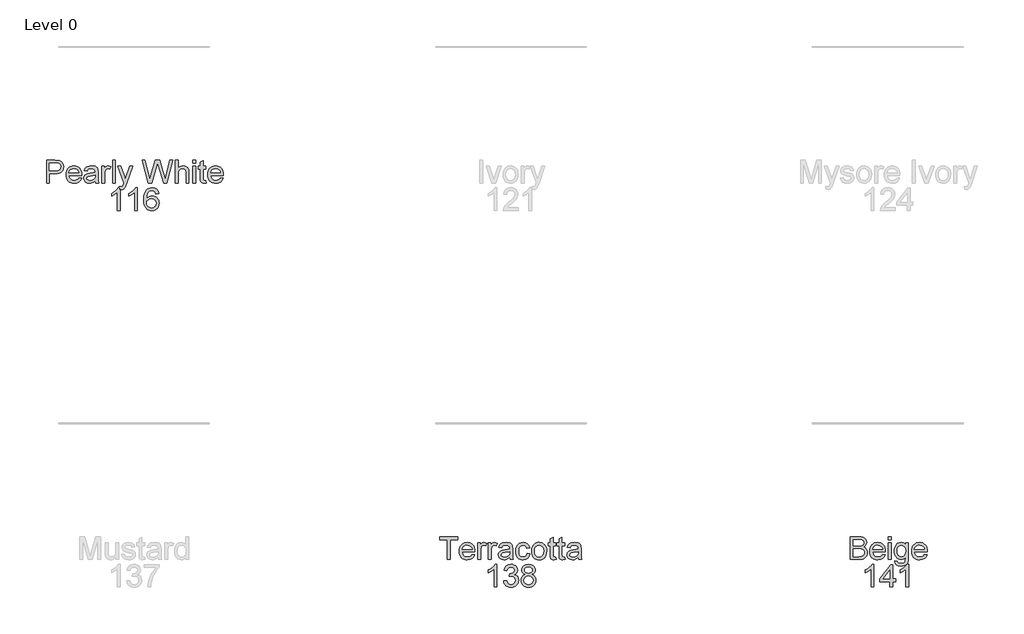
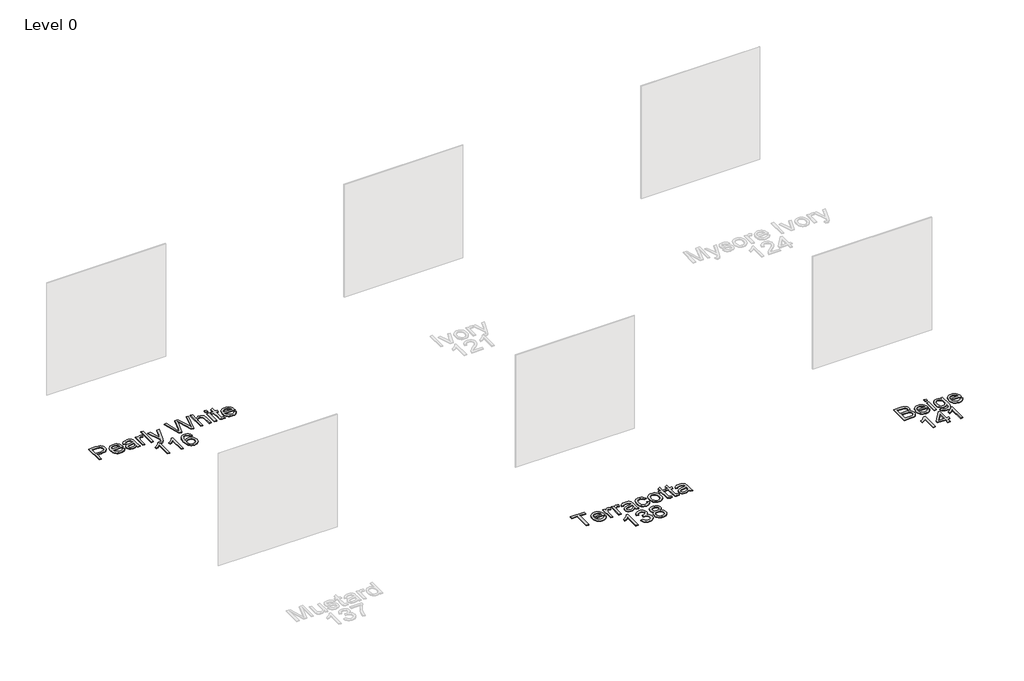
# One storey, part 13 of 15: 3 proxies.
"""IFC4 building model written with IfcOpenShell, lengths in millimetres."""

from ifc_helpers import new_model, si_unit, origin, origin_with_axes, place, context, project, spatial, polyline, outline, extrude, element, save

model = new_model("IFC4")

# Units and contexts
model_context = context("Model", 3, world=origin())
ifc_project = project(units=[si_unit("LENGTHUNIT", "METRE", prefix="MILLI")], contexts=[model_context])

# Site, building, storey
site = spatial("IfcSite", under=ifc_project)
building = spatial("IfcBuilding", under=site)
storey = spatial("IfcBuildingStorey", under=building, Name="Level 0", Elevation=0.0)

# Proxies
placement = place(None, origin())
element("IfcBuildingElementProxy", 1, Name="300mm Arial", ObjectType="300mm Arial", at=placement, inside=storey, context=model_context, shape_type="SweptSolid", body=[
    extrude(outline(polyline([(10050.1996526, -12002.860494), (10050.1996526, -11701.4915635), (10165.1995643, -11701.4915635), (10196.8282189, -11703.7080526), (10221.5222978, -11710.3575196), (10240.4498264, -11721.6055116), (10254.7788302, -11737.6175755), (10263.8011361, -11756.4531336), (10266.8085714, -11776.1716086), (10264.2793827, -11794.317388), (10256.6918165, -11811.3779155), (10243.9906906, -11826.3047274), (10226.1208227, -11838.0493601), (10247.4671755, -11849.1961846), (10263.240116, -11866.1555446), (10272.9797919, -11887.8054), (10276.2263505, -11913.0237108), (10274.0098615, -11934.0389697), (10267.3603944, -11953.5275184), (10257.4367776, -11970.1006023), (10245.3978393, -11982.3694669), (10230.6549683, -11991.253817), (10212.6195535, -11997.6733578), (10164.3166475, -12002.860494), (10050.1996526, -12002.860494)]), holes=[polyline([(10087.8707689, -11823.9226915), (10156.664702, -11823.9226915), (10196.8374159, -11820.68533), (10210.8997052, -11815.1027207), (10221.007263, -11806.7426024), (10227.1049071, -11795.7337336), (10229.1374551, -11782.2048733), (10227.2428628, -11769.071486), (10221.559086, -11757.630356), (10212.343642, -11748.7000206), (10199.8540483, -11743.0990172), (10151.4407777, -11739.1626798), (10087.8707689, -11739.1626798), (10087.8707689, -11823.9226915)]), polyline([(10087.8707689, -11965.1893777), (10165.1259879, -11965.1893777), (10193.0850196, -11963.7178497), (10216.7398319, -11955.5140812), (10232.4116048, -11938.7754504), (10237.0193268, -11926.9480443), (10238.5552342, -11913.3915928), (10236.7526124, -11897.6462434), (10231.3447471, -11884.1081859), (10221.8993768, -11873.5223815), (10207.9842404, -11866.6337912), (10188.2749625, -11862.8538037), (10161.447168, -11861.5938078), (10087.8707689, -11861.5938078), (10087.8707689, -11965.1893777)])]), origin_with_axes(), (0.0, 0.0, 1.0), 10.0),
    extrude(outline(polyline([(10478.2671422, -11936.9360404), (10515.2024945, -11941.64493), (10501.8943634, -11969.4752029), (10480.6583752, -11990.2789297), (10451.9727766, -12003.2467701), (10416.3158142, -12007.5693835), (10392.941512, -12005.7046817), (10372.1147925, -12000.1105761), (10353.8356559, -11990.7870668), (10338.1041021, -11977.7341537), (10325.45356, -11961.3151204), (10316.4174584, -11941.8932503), (10310.9957975, -11919.4685435), (10309.1885772, -11894.0409998), (10311.0141916, -11867.7512327), (10316.4910348, -11844.5792656), (10325.6191069, -11824.5250983), (10338.3984077, -11807.5887309), (10354.0885748, -11794.133447), (10371.9492456, -11784.5225298), (10391.9804203, -11778.7559796), (10414.1820987, -11776.8337961), (10435.6687064, -11778.751381), (10455.0997736, -11784.5041357), (10472.4753001, -11794.0920602), (10487.7952859, -11807.5151545), (10500.3009745, -11824.4147337), (10509.2336092, -11844.4321128), (10514.59319, -11867.5672917), (10516.3797169, -11893.8202706), (10516.1589877, -11903.9738137), (10346.8596935, -11903.9738137), (10353.3804019, -11932.1719686), (10368.5279431, -11952.902119), (10390.3893306, -11965.6492302), (10417.0515782, -11969.8982672), (10437.101147, -11967.9300985), (10453.9869305, -11962.0255925), (10467.708929, -11951.8168672), (10478.2671422, -11936.9360404)]), holes=[polyline([(10346.8596935, -11866.3026974), (10478.7086006, -11866.3026974), (10473.613435, -11846.4002814), (10463.6254388, -11832.1632482), (10441.6628837, -11818.9194964), (10414.0349459, -11814.5049125), (10388.6418911, -11818.0273826), (10367.6450263, -11828.5947929), (10353.0493081, -11845.0667092), (10346.8596935, -11866.3026974)])]), origin_with_axes(), (0.0, 0.0, 1.0), 10.0),
    extrude(outline(polyline([(10554.0508332, -11739.1626798), (10554.0508332, -11701.4915635), (10591.7219495, -11701.4915635), (10591.7219495, -11739.1626798), (10554.0508332, -11739.1626798)])), origin_with_axes(), (0.0, 0.0, 1.0), 10.0),
    extrude(outline(polyline([(10554.0508332, -12002.860494), (10554.0508332, -11781.5426857), (10591.7219495, -11781.5426857), (10591.7219495, -12002.860494), (10554.0508332, -12002.860494)])), origin_with_axes(), (0.0, 0.0, 1.0), 10.0),
    extrude(outline(polyline([(10638.8108449, -12021.6960521), (10676.4819612, -12026.4049417), (10680.6390278, -12038.1771655), (10688.6956435, -12046.2705694), (10704.5329634, -12052.5613515), (10725.2631138, -12054.6582789), (10747.3728217, -12052.28544), (10763.8171469, -12045.1669234), (10775.2214887, -12033.7625816), (10782.2112466, -12018.532267), (10784.7864206, -11974.6071568), (10772.2508416, -11986.9679918), (10758.2621288, -11995.7971597), (10742.820282, -12001.0946604), (10725.9253014, -12002.860494), (10705.2710266, -12000.8049533), (10687.0861597, -11994.6383314), (10671.3707008, -11984.3606281), (10658.1246497, -11969.9718436), (10647.6147209, -11952.708981), (10640.107629, -11933.8090435), (10635.6033738, -11913.2720311), (10634.1019554, -11891.0979438), (10636.796691, -11860.6832999), (10644.8808978, -11832.7150712), (10658.0694674, -11809.0142737), (10676.077291, -11791.4019232), (10698.2881665, -11780.4758279), (10724.0858914, -11776.8337961), (10741.7028404, -11778.8939353), (10757.6919117, -11785.0743528), (10772.053105, -11795.3750487), (10784.7864206, -11809.7960229), (10784.7864206, -11781.5426857), (10822.4575369, -11781.5426857), (10822.4575369, -11972.620594), (10819.8823629, -12016.7388422), (10812.156841, -12045.7923228), (10798.8487099, -12065.0601423), (10779.5257081, -12079.8214074), (10754.6109, -12089.2023982), (10724.5273498, -12092.3293952), (10689.4773927, -12087.9240083), (10661.877046, -12074.7078476), (10651.4820804, -12064.7865301), (10644.172725, -12052.644125), (10639.9489798, -12038.2806323), (10638.8108449, -12021.6960521)]), holes=[polyline([(10671.7730717, -11888.5227699), (10675.7921825, -11923.0760863), (10687.8495149, -11946.8320661), (10705.9769002, -11960.6000498), (10728.2061697, -11965.1893777), (10750.2698924, -11960.6276409), (10768.4892482, -11946.9424307), (10780.7121275, -11923.4899535), (10784.7864206, -11889.6264159), (10780.5925659, -11856.9676917), (10768.0110016, -11833.4508352), (10749.5249314, -11819.2413931), (10727.6175586, -11814.5049125), (10706.1056589, -11819.1678167), (10688.0702441, -11833.1565296), (10675.8473648, -11856.3238983), (10671.7730717, -11888.5227699)])]), origin_with_axes(), (0.0, 0.0, 1.0), 10.0),
    extrude(outline(polyline([(11033.9161077, -11936.9360404), (11070.8514601, -11941.64493), (11057.5433289, -11969.4752029), (11036.3073407, -11990.2789297), (11007.6217421, -12003.2467701), (10971.9647798, -12007.5693835), (10948.5904775, -12005.7046817), (10927.763758, -12000.1105761), (10909.4846214, -11990.7870668), (10893.7530676, -11977.7341537), (10881.1025255, -11961.3151204), (10872.066424, -11941.8932503), (10866.6447631, -11919.4685435), (10864.8375428, -11894.0409998), (10866.6631572, -11867.7512327), (10872.1400004, -11844.5792656), (10881.2680724, -11824.5250983), (10894.0473732, -11807.5887309), (10909.7375403, -11794.133447), (10927.5982111, -11784.5225298), (10947.6293858, -11778.7559796), (10969.8310642, -11776.8337961), (10991.317672, -11778.751381), (11010.7487391, -11784.5041357), (11028.1242656, -11794.0920602), (11043.4442514, -11807.5151545), (11055.94994, -11824.4147337), (11064.8825747, -11844.4321128), (11070.2421555, -11867.5672917), (11072.0286824, -11893.8202706), (11071.8079532, -11903.9738137), (10902.5086591, -11903.9738137), (10909.0293674, -11932.1719686), (10924.1769086, -11952.902119), (10946.0382961, -11965.6492302), (10972.7005437, -11969.8982672), (10992.7501125, -11967.9300985), (11009.6358961, -11962.0255925), (11023.3578945, -11951.8168672), (11033.9161077, -11936.9360404)]), holes=[polyline([(10902.5086591, -11866.3026974), (11034.3575661, -11866.3026974), (11029.2624005, -11846.4002814), (11019.2744043, -11832.1632482), (10997.3118492, -11818.9194964), (10969.6839114, -11814.5049125), (10944.2908567, -11818.0273826), (10923.2939918, -11828.5947929), (10908.6982736, -11845.0667092), (10902.5086591, -11866.3026974)])]), origin_with_axes(), (0.0, 0.0, 1.0), 10.0),
    extrude(outline(polyline([(10363.3408069, -12368.7849475), (10325.6696906, -12368.7849475), (10325.6696906, -12133.9290818), (10289.9851371, -12159.3497277), (10250.327458, -12178.3692268), (10250.327458, -12142.7582497), (10279.9143675, -12126.6634124), (10305.5465455, -12107.5151545), (10325.7524641, -12087.1528861), (10339.0605952, -12067.4160171), (10363.3408069, -12067.4160171), (10363.3408069, -12368.7849475)])), origin_with_axes(), (0.0, 0.0, 1.0), 10.0),
    extrude(outline(polyline([(10575.2408362, -12368.7849475), (10575.2408362, -12298.1516044), (10438.6830395, -12298.1516044), (10438.6830395, -12260.4804881), (10584.6586152, -12072.1249066), (10612.9119525, -12072.1249066), (10612.9119525, -12260.4804881), (10650.5830688, -12260.4804881), (10650.5830688, -12298.1516044), (10612.9119525, -12298.1516044), (10612.9119525, -12368.7849475), (10575.2408362, -12368.7849475)]), holes=[polyline([(10575.2408362, -12260.4804881), (10575.2408362, -12144.0826249), (10485.0361709, -12260.4804881), (10575.2408362, -12260.4804881)])]), origin_with_axes(), (0.0, 0.0, 1.0), 10.0),
    extrude(outline(polyline([(10824.8119817, -12368.7849475), (10787.1408654, -12368.7849475), (10787.1408654, -12133.9290818), (10751.4563118, -12159.3497277), (10711.7986328, -12178.3692268), (10711.7986328, -12142.7582497), (10741.3855422, -12126.6634124), (10767.0177202, -12107.5151545), (10787.2236388, -12087.1528861), (10800.53177, -12067.4160171), (10824.8119817, -12067.4160171), (10824.8119817, -12368.7849475)])), origin_with_axes(), (0.0, 0.0, 1.0), 10.0),
])
element("IfcBuildingElementProxy", 2, Name="300mm Arial", ObjectType="300mm Arial", at=placement, inside=storey, context=model_context, shape_type="SweptSolid", body=[
    extrude(outline(polyline([(-611.3993275, -7002.860494), (-611.3993275, -6701.4915635), (-499.7103538, -6701.4915635), (-454.6815975, -6704.3610431), (-434.6044377, -6709.7229232), (-418.077339, -6718.4509235), (-404.7692078, -6730.9405172), (-394.3489503, -6747.5871775), (-387.6167098, -6767.222879), (-385.3726297, -6788.6795964), (-386.8878436, -6807.1794622), (-391.4334855, -6824.198603), (-399.0095554, -6839.7370188), (-409.6160531, -6853.7947095), (-424.1772824, -6865.4473717), (-443.6175465, -6873.7707019), (-467.9368457, -6878.7647), (-497.1351798, -6880.429366), (-573.7282112, -6880.429366), (-573.7282112, -7002.860494), (-611.3993275, -7002.860494)]), holes=[polyline([(-573.7282112, -6842.7582497), (-494.9278878, -6842.7582497), (-461.5242027, -6839.3001589), (-439.4512829, -6828.9258867), (-427.1456302, -6812.2792264), (-423.043746, -6790.0039716), (-425.4625701, -6773.0813998), (-432.7190424, -6758.8075784), (-443.9118521, -6748.0654241), (-458.1396883, -6741.7378538), (-495.8108046, -6739.1626798), (-573.7282112, -6739.1626798), (-573.7282112, -6842.7582497)])]), origin_with_axes(), (0.0, 0.0, 1.0), 10.0),
    extrude(outline(polyline([(-183.3318379, -6936.9360404), (-146.3964856, -6941.64493), (-159.7046168, -6969.4752029), (-180.9406049, -6990.2789297), (-209.6262035, -7003.2467701), (-245.2831659, -7007.5693835), (-268.6574682, -7005.7046817), (-289.4841876, -7000.1105761), (-307.7633242, -6990.7870668), (-323.4948781, -6977.7341537), (-336.1454202, -6961.3151204), (-345.1815217, -6941.8932503), (-350.6031826, -6919.4685435), (-352.4104029, -6894.0409998), (-350.5847885, -6867.7512327), (-345.1079453, -6844.5792656), (-335.9798733, -6824.5250983), (-323.2005725, -6807.5887309), (-307.5104054, -6794.133447), (-289.6497345, -6784.5225298), (-269.6185599, -6778.7559796), (-247.4168815, -6776.8337961), (-225.9302737, -6778.751381), (-206.4992065, -6784.5041357), (-189.1236801, -6794.0920602), (-173.8036942, -6807.5151545), (-161.2980057, -6824.4147337), (-152.365371, -6844.4321128), (-147.0057901, -6867.5672917), (-145.2192632, -6893.8202706), (-145.4399924, -6903.9738137), (-314.7392866, -6903.9738137), (-308.2185782, -6932.1719686), (-293.0710371, -6952.902119), (-271.2096495, -6965.6492302), (-244.5474019, -6969.8982672), (-224.4978332, -6967.9300985), (-207.6120496, -6962.0255925), (-193.8900512, -6951.8168672), (-183.3318379, -6936.9360404)]), holes=[polyline([(-314.7392866, -6866.3026974), (-182.8903795, -6866.3026974), (-187.9855451, -6846.4002814), (-197.9735413, -6832.1632482), (-219.9360964, -6818.9194964), (-247.5640343, -6814.5049125), (-272.957089, -6818.0273826), (-293.9539539, -6828.5947929), (-308.549672, -6845.0667092), (-314.7392866, -6866.3026974)])]), origin_with_axes(), (0.0, 0.0, 1.0), 10.0),
    extrude(outline(polyline([(33.7185393, -6974.6071568), (15.7199126, -6990.0398064), (-2.8121429, -7000.1381672), (-22.3006916, -7005.7115794), (-43.1687977, -7007.5693835), (-74.6502995, -7003.0996173), (-97.8728504, -6989.6903186), (-112.1926571, -6969.3280501), (-116.965926, -6943.9993748), (-115.1633042, -6928.3827841), (-109.7554389, -6914.2009331), (-101.4137146, -6902.0608273), (-90.8095161, -6892.5694718), (-64.4323771, -6880.2086368), (-31.8380323, -6874.5432541), (6.6792126, -6868.5835657), (33.4978101, -6861.5938078), (33.7185393, -6853.2060983), (31.1249712, -6836.3938912), (23.344267, -6825.3942195), (5.9434486, -6817.2272392), (-18.2999749, -6814.5049125), (-40.7407766, -6816.3167313), (-56.4125496, -6821.7521878), (-67.0995215, -6831.8045633), (-74.5859201, -6847.4671392), (-112.2570364, -6842.7582497), (-105.717934, -6822.156858), (-95.959864, -6805.9700502), (-82.0723187, -6793.590821), (-63.1447901, -6784.4121652), (-39.9958155, -6778.7283884), (-13.4439325, -6776.8337961), (12.0226986, -6778.5076592), (32.2102231, -6783.5292485), (47.4313406, -6791.0800264), (57.9987509, -6800.3414556), (65.0069029, -6811.7917827), (69.5502456, -6825.9092543), (71.3896556, -6858.8714811), (71.3896556, -6905.7396473), (73.3026419, -6971.1858542), (80.8074346, -7002.860494), (43.1363183, -7002.860494), (33.7185393, -6974.6071568)]), holes=[polyline([(33.7185393, -6899.2649241), (-27.0555664, -6910.8164188), (-59.4659701, -6916.9232599), (-74.1444617, -6926.8560738), (-79.2948097, -6941.3506244), (-76.4897095, -6952.5526311), (-68.0744088, -6961.7312869), (-54.2328487, -6967.8565221), (-35.1489702, -6969.8982672), (-14.9154605, -6967.64499), (2.9636045, -6960.8851583), (17.4581551, -6950.9247533), (27.5381217, -6939.069756), (32.007888, -6926.8560738), (33.4978101, -6909.933502), (33.7185393, -6899.2649241)])]), origin_with_axes(), (0.0, 0.0, 1.0), 10.0),
    extrude(outline(polyline([(123.1874405, -7002.860494), (123.1874405, -6781.5426857), (156.1496672, -6781.5426857), (156.1496672, -6814.2841833), (168.3265613, -6795.3014723), (179.5469621, -6784.1178596), (190.8041512, -6778.654812), (203.0914098, -6776.8337961), (221.8533916, -6779.7400639), (240.9096789, -6788.4588672), (228.3281147, -6822.2304343), (215.0843629, -6816.4362929), (201.840611, -6814.5049125), (190.592619, -6816.3627165), (180.5402435, -6821.9361288), (172.4192485, -6830.8020848), (166.9653979, -6842.5375205), (162.3852671, -6863.5803706), (160.8585568, -6886.5362071), (160.8585568, -7002.860494), (123.1874405, -7002.860494)])), origin_with_axes(), (0.0, 0.0, 1.0), 10.0),
    extrude(outline(polyline([(264.4541266, -7002.860494), (264.4541266, -6701.4915635), (302.1252429, -6701.4915635), (302.1252429, -7002.860494), (264.4541266, -7002.860494)])), origin_with_axes(), (0.0, 0.0, 1.0), 10.0),
    extrude(outline(polyline([(358.6319174, -7087.6205057), (353.9230279, -7051.3473409), (373.0528916, -7054.6582789), (390.9319566, -7050.5012124), (401.89484, -7038.9129295), (412.1955359, -7011.1746271), (415.1385919, -7002.0511536), (335.0874697, -6781.5426857), (374.8187252, -6781.5426857), (417.2723074, -6904.4152721), (432.0611636, -6953.5643066), (446.8500198, -6910.1542312), (490.4808245, -6781.5426857), (529.9177743, -6781.5426857), (452.8832846, -7008.1579947), (432.870504, -7057.3070293), (422.6249905, -7072.9971964), (411.0183135, -7083.8681093), (397.5354384, -7090.2140737), (381.6613303, -7092.3293952), (358.6319174, -7087.6205057)])), origin_with_axes(), (0.0, 0.0, 1.0), 10.0),
    extrude(outline(polyline([(737.476796, -7002.860494), (655.2919583, -6701.4915635), (694.140297, -6701.4915635), (741.8178036, -6899.5592297), (756.5330834, -6960.7012173), (772.2784328, -6906.622564), (832.0224688, -6701.4915635), (888.0141085, -6701.4915635), (931.4241839, -6850.189466), (950.0206187, -6905.3717653), (963.7242231, -6960.7012173), (977.9980445, -6901.3250633), (1026.1170094, -6701.4915635), (1064.9653481, -6701.4915635), (982.706934, -7002.860494), (942.4606437, -7002.860494), (870.2086199, -6770.359073), (860.1286532, -6737.9118811), (848.7978878, -6776.9809489), (782.9470106, -7002.860494), (737.476796, -7002.860494)])), origin_with_axes(), (0.0, 0.0, 1.0), 10.0),
    extrude(outline(polyline([(1097.9275749, -7002.860494), (1097.9275749, -6701.4915635), (1135.5986912, -6701.4915635), (1135.5986912, -6812.2976205), (1149.4356527, -6796.7821973), (1164.9740685, -6785.6997522), (1182.2139385, -6779.0502852), (1201.1552627, -6776.8337961), (1223.9087641, -6779.2526203), (1243.4616922, -6786.5090926), (1258.8575537, -6798.0329961), (1269.1398555, -6813.2541137), (1274.9339969, -6834.1682051), (1276.8653774, -6862.7710302), (1276.8653774, -7002.860494), (1239.194261, -7002.860494), (1239.194261, -6866.6705794), (1236.1960228, -6843.0893435), (1227.201308, -6826.9393239), (1212.7067574, -6817.6135153), (1193.2090117, -6814.5049125), (1177.2889183, -6816.6018398), (1162.3437123, -6822.8926219), (1149.9644831, -6832.7702535), (1141.7423205, -6845.6277292), (1137.1345985, -6862.7158479), (1135.5986912, -6885.2854083), (1135.5986912, -7002.860494), (1097.9275749, -7002.860494)])), origin_with_axes(), (0.0, 0.0, 1.0), 10.0),
    extrude(outline(polyline([(1328.6631623, -6739.1626798), (1328.6631623, -6701.4915635), (1366.3342786, -6701.4915635), (1366.3342786, -6739.1626798), (1328.6631623, -6739.1626798)])), origin_with_axes(), (0.0, 0.0, 1.0), 10.0),
    extrude(outline(polyline([(1328.6631623, -7002.860494), (1328.6631623, -6781.5426857), (1366.3342786, -6781.5426857), (1366.3342786, -7002.860494), (1328.6631623, -7002.860494)])), origin_with_axes(), (0.0, 0.0, 1.0), 10.0),
    extrude(outline(polyline([(1502.8920752, -6971.4433716), (1507.6009647, -7003.96414), (1479.4212039, -7007.5693835), (1461.3398038, -7006.005885), (1447.8569287, -7001.3153896), (1438.328785, -6994.0865084), (1432.1115793, -6984.9078526), (1428.6902768, -6969.1441091), (1427.5498426, -6942.1599648), (1427.5498426, -6819.213802), (1399.2965053, -6819.213802), (1399.2965053, -6781.5426857), (1427.5498426, -6781.5426857), (1427.5498426, -6727.758338), (1465.2209589, -6705.6118419), (1465.2209589, -6781.5426857), (1502.8920752, -6781.5426857), (1502.8920752, -6819.213802), (1465.2209589, -6819.213802), (1465.2209589, -6941.0563188), (1467.2075217, -6960.4804881), (1473.6454566, -6967.3598814), (1486.4845382, -6969.8982672), (1502.8920752, -6971.4433716)])), origin_with_axes(), (0.0, 0.0, 1.0), 10.0),
    extrude(outline(polyline([(1695.5150879, -6936.9360404), (1732.4504402, -6941.64493), (1719.142309, -6969.4752029), (1697.9063208, -6990.2789297), (1669.2207223, -7003.2467701), (1633.5637599, -7007.5693835), (1610.1894576, -7005.7046817), (1589.3627382, -7000.1105761), (1571.0836015, -6990.7870668), (1555.3520477, -6977.7341537), (1542.7015056, -6961.3151204), (1533.6654041, -6941.8932503), (1528.2437432, -6919.4685435), (1526.4365229, -6894.0409998), (1528.2621373, -6867.7512327), (1533.7389805, -6844.5792656), (1542.8670525, -6824.5250983), (1555.6463533, -6807.5887309), (1571.3365204, -6794.133447), (1589.1971913, -6784.5225298), (1609.2283659, -6778.7559796), (1631.4300443, -6776.8337961), (1652.9166521, -6778.751381), (1672.3477192, -6784.5041357), (1689.7232457, -6794.0920602), (1705.0432315, -6807.5151545), (1717.5489201, -6824.4147337), (1726.4815548, -6844.4321128), (1731.8411356, -6867.5672917), (1733.6276626, -6893.8202706), (1733.4069334, -6903.9738137), (1564.1076392, -6903.9738137), (1570.6283476, -6932.1719686), (1585.7758887, -6952.902119), (1607.6372763, -6965.6492302), (1634.2995239, -6969.8982672), (1654.3490926, -6967.9300985), (1671.2348762, -6962.0255925), (1684.9568746, -6951.8168672), (1695.5150879, -6936.9360404)]), holes=[polyline([(1564.1076392, -6866.3026974), (1695.9565463, -6866.3026974), (1690.8613806, -6846.4002814), (1680.8733845, -6832.1632482), (1658.9108293, -6818.9194964), (1631.2828915, -6814.5049125), (1605.8898368, -6818.0273826), (1584.8929719, -6828.5947929), (1570.2972538, -6845.0667092), (1564.1076392, -6866.3026974)])]), origin_with_axes(), (0.0, 0.0, 1.0), 10.0),
    extrude(outline(polyline([(363.3408069, -7368.7849475), (325.6696906, -7368.7849475), (325.6696906, -7133.9290818), (289.9851371, -7159.3497277), (250.327458, -7178.3692268), (250.327458, -7142.7582497), (279.9143675, -7126.6634124), (305.5465455, -7107.5151545), (325.7524641, -7087.1528861), (339.0605952, -7067.4160171), (363.3408069, -7067.4160171), (363.3408069, -7368.7849475)])), origin_with_axes(), (0.0, 0.0, 1.0), 10.0),
    extrude(outline(polyline([(594.0763943, -7368.7849475), (556.405278, -7368.7849475), (556.405278, -7133.9290818), (520.7207245, -7159.3497277), (481.0630454, -7178.3692268), (481.0630454, -7142.7582497), (510.6499548, -7126.6634124), (536.2821329, -7107.5151545), (556.4880514, -7087.1528861), (569.7961826, -7067.4160171), (594.0763943, -7067.4160171), (594.0763943, -7368.7849475)])), origin_with_axes(), (0.0, 0.0, 1.0), 10.0),
    extrude(outline(polyline([(876.6097666, -7147.4671392), (838.9386503, -7152.1760288), (832.8685974, -7133.5060175), (824.6648289, -7120.7589064), (807.5767102, -7109.0050766), (786.9201362, -7105.0871334), (769.4089532, -7107.3680017), (752.9278398, -7114.2106069), (738.7735801, -7128.622384), (727.2128884, -7148.4604206), (719.404593, -7176.5206198), (716.5075223, -7215.5988847), (731.6182753, -7197.9681401), (749.7272665, -7185.5429257), (769.8228205, -7178.1760888), (790.8932617, -7175.7204764), (808.9930559, -7177.3989381), (825.6948985, -7182.4343229), (840.9987895, -7190.8266309), (854.9047289, -7202.5758621), (866.4608221, -7216.9830407), (874.7151743, -7233.349191), (879.6677857, -7251.6743129), (881.3186561, -7271.9584064), (878.2100533, -7298.9333537), (868.8842447, -7323.9401323), (854.1137826, -7345.1485293), (834.6712192, -7360.7283318), (811.4394712, -7370.3024607), (785.3014554, -7373.4938371), (762.8445589, -7371.3785156), (742.5627646, -7365.0325512), (724.4560727, -7354.4559438), (708.524483, -7339.6486935), (695.5359493, -7319.9854009), (686.2584252, -7294.8406665), (680.6919108, -7264.2144904), (678.836406, -7228.1068726), (680.8965452, -7187.6260575), (687.0769627, -7153.0773396), (697.3776586, -7124.4607189), (711.7986328, -7101.7761954), (727.429019, -7086.7436174), (745.5518058, -7076.0060617), (766.1669931, -7069.5635282), (789.2745809, -7067.4160171), (822.3287782, -7072.7319119), (848.7978878, -7088.6795964), (867.3391403, -7114.0082718), (876.6097666, -7147.4671392)]), holes=[polyline([(716.5075223, -7271.3697952), (718.6872231, -7288.0624407), (725.2263256, -7304.0009282), (735.3798687, -7317.7045325), (748.4028913, -7327.6925287), (764.1206495, -7333.7901727), (782.3583994, -7335.8227207), (807.2180253, -7331.6104719), (826.7617563, -7318.9737254), (839.4260939, -7299.1080976), (843.6475398, -7273.2092052), (839.4812762, -7248.3495793), (826.9824855, -7229.3944595), (807.1076607, -7217.3923095), (780.8132951, -7213.3915928), (755.9904574, -7217.3923095), (735.2327159, -7229.3944595), (721.1888207, -7247.8897269), (716.5075223, -7271.3697952)])]), origin_with_axes(), (0.0, 0.0, 1.0), 10.0),
])
element("IfcBuildingElementProxy", 3, Name="300mm Arial", ObjectType="300mm Arial", at=placement, inside=storey, context=model_context, shape_type="SweptSolid", body=[
    extrude(outline(polyline([(4704.0962716, -12002.860494), (4704.0962716, -11739.1626798), (4605.2095913, -11739.1626798), (4605.2095913, -11701.4915635), (4840.6540682, -11701.4915635), (4840.6540682, -11739.1626798), (4741.7673879, -11739.1626798), (4741.7673879, -12002.860494), (4704.0962716, -12002.860494)])), origin_with_axes(), (0.0, 0.0, 1.0), 10.0),
    extrude(outline(polyline([(5033.2770809, -11936.9360404), (5070.2124332, -11941.64493), (5056.904302, -11969.4752029), (5035.6683138, -11990.2789297), (5006.9827153, -12003.2467701), (4971.3257529, -12007.5693835), (4947.9514506, -12005.7046817), (4927.1247312, -12000.1105761), (4908.8455945, -11990.7870668), (4893.1140407, -11977.7341537), (4880.4634986, -11961.3151204), (4871.4273971, -11941.8932503), (4866.0057362, -11919.4685435), (4864.1985159, -11894.0409998), (4866.0241303, -11867.7512327), (4871.5009735, -11844.5792656), (4880.6290455, -11824.5250983), (4893.4083463, -11807.5887309), (4909.0985134, -11794.133447), (4926.9591843, -11784.5225298), (4946.9903589, -11778.7559796), (4969.1920373, -11776.8337961), (4990.6786451, -11778.751381), (5010.1097122, -11784.5041357), (5027.4852387, -11794.0920602), (5042.8052245, -11807.5151545), (5055.3109131, -11824.4147337), (5064.2435478, -11844.4321128), (5069.6031286, -11867.5672917), (5071.3896556, -11893.8202706), (5071.1689264, -11903.9738137), (4901.8696322, -11903.9738137), (4908.3903405, -11932.1719686), (4923.5378817, -11952.902119), (4945.3992693, -11965.6492302), (4972.0615169, -11969.8982672), (4992.1110856, -11967.9300985), (5008.9968692, -11962.0255925), (5022.7188676, -11951.8168672), (5033.2770809, -11936.9360404)]), holes=[polyline([(4901.8696322, -11866.3026974), (5033.7185393, -11866.3026974), (5028.6233736, -11846.4002814), (5018.6353775, -11832.1632482), (4996.6728223, -11818.9194964), (4969.0448845, -11814.5049125), (4943.6518298, -11818.0273826), (4922.6549649, -11828.5947929), (4908.0592468, -11845.0667092), (4901.8696322, -11866.3026974)])]), origin_with_axes(), (0.0, 0.0, 1.0), 10.0),
    extrude(outline(polyline([(5109.0607719, -12002.860494), (5109.0607719, -11781.5426857), (5142.0229986, -11781.5426857), (5142.0229986, -11814.2841833), (5154.1998927, -11795.3014723), (5165.4202935, -11784.1178596), (5176.6774826, -11778.654812), (5188.9647412, -11776.8337961), (5207.726723, -11779.7400639), (5226.7830103, -11788.4588672), (5214.2014461, -11822.2304343), (5200.9576943, -11816.4362929), (5187.7139424, -11814.5049125), (5176.4659504, -11816.3627165), (5166.4135749, -11821.9361288), (5158.2925799, -11830.8020848), (5152.8387293, -11842.5375205), (5148.2585985, -11863.5803706), (5146.7318882, -11886.5362071), (5146.7318882, -12002.860494), (5109.0607719, -12002.860494)])), origin_with_axes(), (0.0, 0.0, 1.0), 10.0),
    extrude(outline(polyline([(5250.327458, -12002.860494), (5250.327458, -11781.5426857), (5283.2896848, -11781.5426857), (5283.2896848, -11814.2841833), (5295.4665788, -11795.3014723), (5306.6869797, -11784.1178596), (5317.9441687, -11778.654812), (5330.2314274, -11776.8337961), (5348.9934091, -11779.7400639), (5368.0496965, -11788.4588672), (5355.4681322, -11822.2304343), (5342.2243804, -11816.4362929), (5328.9806286, -11814.5049125), (5317.7326366, -11816.3627165), (5307.6802611, -11821.9361288), (5299.559266, -11830.8020848), (5294.1054154, -11842.5375205), (5289.5252846, -11863.5803706), (5287.9985743, -11886.5362071), (5287.9985743, -12002.860494), (5250.327458, -12002.860494)])), origin_with_axes(), (0.0, 0.0, 1.0), 10.0),
    extrude(outline(polyline([(5532.8608303, -11974.6071568), (5514.8622037, -11990.0398064), (5496.3301482, -12000.1381672), (5476.8415995, -12005.7115794), (5455.9734933, -12007.5693835), (5424.4919916, -12003.0996173), (5401.2694406, -11989.6903186), (5386.949634, -11969.3280501), (5382.1763651, -11943.9993748), (5383.9789869, -11928.3827841), (5389.3868522, -11914.2009331), (5397.7285764, -11902.0608273), (5408.3327749, -11892.5694718), (5434.709914, -11880.2086368), (5467.3042588, -11874.5432541), (5505.8215037, -11868.5835657), (5532.6401011, -11861.5938078), (5532.8608303, -11853.2060983), (5530.2672622, -11836.3938912), (5522.486558, -11825.3942195), (5505.0857397, -11817.2272392), (5480.8423162, -11814.5049125), (5458.4015145, -11816.3167313), (5442.7297415, -11821.7521878), (5432.0427695, -11831.8045633), (5424.5563709, -11847.4671392), (5386.8852546, -11842.7582497), (5393.4243571, -11822.156858), (5403.182427, -11805.9700502), (5417.0699723, -11793.590821), (5435.997501, -11784.4121652), (5459.1464755, -11778.7283884), (5485.6983585, -11776.8337961), (5511.1649896, -11778.5076592), (5531.3525141, -11783.5292485), (5546.5736317, -11791.0800264), (5557.141042, -11800.3414556), (5564.149194, -11811.7917827), (5568.6925366, -11825.9092543), (5570.5319466, -11858.8714811), (5570.5319466, -11905.7396473), (5572.444933, -11971.1858542), (5579.9497257, -12002.860494), (5542.2786094, -12002.860494), (5532.8608303, -11974.6071568)]), holes=[polyline([(5532.8608303, -11899.2649241), (5472.0867247, -11910.8164188), (5439.6763209, -11916.9232599), (5424.9978293, -11926.8560738), (5419.8474814, -11941.3506244), (5422.6525816, -11952.5526311), (5431.0678822, -11961.7312869), (5444.9094423, -11967.8565221), (5463.9933208, -11969.8982672), (5484.2268305, -11967.64499), (5502.1058955, -11960.8851583), (5516.6004461, -11950.9247533), (5526.6804128, -11939.069756), (5531.150179, -11926.8560738), (5532.6401011, -11909.933502), (5532.8608303, -11899.2649241)])]), origin_with_axes(), (0.0, 0.0, 1.0), 10.0),
    extrude(outline(polyline([(5763.5964177, -11922.8093718), (5801.267534, -11927.5182614), (5790.764503, -11961.0231141), (5771.027634, -11986.3425924), (5743.9147309, -12002.2626857), (5711.283598, -12007.5693835), (5690.1556751, -12005.7184772), (5671.2120516, -12000.1657584), (5654.4527275, -11990.9112269), (5639.8777027, -11977.9548829), (5628.080187, -11961.5404481), (5619.65339, -11941.9116444), (5614.5973118, -11919.0684718), (5612.9119525, -11893.0109302), (5615.7906291, -11859.4876834), (5624.4266589, -11830.4342028), (5638.9579977, -11806.9725286), (5659.5226012, -11790.2247008), (5684.1247097, -11780.1815223), (5710.7685632, -11776.8337961), (5742.5995528, -11781.4323211), (5768.0477898, -11795.2278959), (5786.3039338, -11817.4847566), (5796.5586445, -11847.4671392), (5758.8875281, -11852.1760288), (5752.0541201, -11835.7409006), (5741.4131334, -11823.9594797), (5727.5531792, -11816.8685543), (5711.0628688, -11814.5049125), (5686.7182777, -11819.1586197), (5667.3952759, -11833.1197414), (5654.7861206, -11857.1424357), (5650.5830688, -11891.9808606), (5654.6941501, -11927.2883351), (5667.0273939, -11951.3938029), (5686.0009079, -11965.2721511), (5710.0327992, -11969.8982672), (5729.539742, -11967.0103936), (5745.5334117, -11958.3467726), (5757.1676798, -11943.6866751), (5763.5964177, -11922.8093718)])), origin_with_axes(), (0.0, 0.0, 1.0), 10.0),
    extrude(outline(polyline([(5824.8119817, -11892.2015898), (5826.8491282, -11863.5389839), (5832.9605679, -11838.8403064), (5843.1463006, -11818.1055575), (5857.4063265, -11801.334737), (5871.7629213, -11790.6155754), (5887.6094383, -11782.9590314), (5904.9458773, -11778.3651049), (5923.7722384, -11776.8337961), (5944.5552718, -11778.698498), (5963.347144, -11784.2926036), (5980.1478549, -11793.6161129), (5994.9574045, -11806.669026), (6007.0446273, -11823.0098843), (6015.6783578, -11842.1972296), (6020.8585962, -11864.2310619), (6022.5853423, -11889.1113811), (6019.5319217, -11927.1687735), (6010.37166, -11956.1394806), (5995.3712717, -11977.8353213), (5974.7974711, -11994.0681143), (5950.3609096, -12004.1940662), (5923.7722384, -12007.5693835), (5902.6857023, -12005.7115794), (5883.7190862, -12000.1381672), (5866.87239, -11990.8491468), (5852.1456139, -11977.8445183), (5840.1871498, -11961.3450108), (5831.6453897, -11941.5713536), (5826.5203337, -11918.5235466), (5824.8119817, -11892.2015898)]), holes=[polyline([(5862.483098, -11892.1280134), (5866.8424996, -11926.2214773), (5879.9207046, -11950.5108861), (5899.6023913, -11965.0514219), (5923.7722384, -11969.8982672), (5947.8317209, -11965.0238308), (5967.4766194, -11950.4005215), (5980.5548243, -11925.789216), (5984.914226, -11890.950791), (5980.5272332, -11857.8506085), (5967.3662548, -11833.8922936), (5947.6937651, -11819.3517577), (5923.7722384, -11814.5049125), (5899.6023913, -11819.3333636), (5879.9207046, -11833.8187172), (5866.8424996, -11858.0529436), (5862.483098, -11892.1280134)])]), origin_with_axes(), (0.0, 0.0, 1.0), 10.0),
    extrude(outline(polyline([(6145.0164703, -11971.4433716), (6149.7253598, -12003.96414), (6121.545599, -12007.5693835), (6103.4641989, -12006.005885), (6089.9813238, -12001.3153896), (6080.4531801, -11994.0865084), (6074.2359744, -11984.9078526), (6070.8146719, -11969.1441091), (6069.6742377, -11942.1599648), (6069.6742377, -11819.213802), (6041.4209004, -11819.213802), (6041.4209004, -11781.5426857), (6069.6742377, -11781.5426857), (6069.6742377, -11727.758338), (6107.345354, -11705.6118419), (6107.345354, -11781.5426857), (6145.0164703, -11781.5426857), (6145.0164703, -11819.213802), (6107.345354, -11819.213802), (6107.345354, -11941.0563188), (6109.3319168, -11960.4804881), (6115.7698517, -11967.3598814), (6128.6089333, -11969.8982672), (6145.0164703, -11971.4433716)])), origin_with_axes(), (0.0, 0.0, 1.0), 10.0),
    extrude(outline(polyline([(6262.7387087, -11971.4433716), (6267.4475983, -12003.96414), (6239.2678374, -12007.5693835), (6221.1864374, -12006.005885), (6207.7035623, -12001.3153896), (6198.1754186, -11994.0865084), (6191.9582129, -11984.9078526), (6188.5369103, -11969.1441091), (6187.3964761, -11942.1599648), (6187.3964761, -11819.213802), (6159.1431389, -11819.213802), (6159.1431389, -11781.5426857), (6187.3964761, -11781.5426857), (6187.3964761, -11727.758338), (6225.0675924, -11705.6118419), (6225.0675924, -11781.5426857), (6262.7387087, -11781.5426857), (6262.7387087, -11819.213802), (6225.0675924, -11819.213802), (6225.0675924, -11941.0563188), (6227.0541552, -11960.4804881), (6233.4920901, -11967.3598814), (6246.3311718, -11969.8982672), (6262.7387087, -11971.4433716)])), origin_with_axes(), (0.0, 0.0, 1.0), 10.0),
    extrude(outline(polyline([(6441.6765112, -11974.6071568), (6423.6778846, -11990.0398064), (6405.1458291, -12000.1381672), (6385.6572804, -12005.7115794), (6364.7891742, -12007.5693835), (6333.3076725, -12003.0996173), (6310.0851215, -11989.6903186), (6295.7653149, -11969.3280501), (6290.992046, -11943.9993748), (6292.7946677, -11928.3827841), (6298.2025331, -11914.2009331), (6306.5442573, -11902.0608273), (6317.1484558, -11892.5694718), (6343.5255949, -11880.2086368), (6376.1199397, -11874.5432541), (6414.6371845, -11868.5835657), (6441.455782, -11861.5938078), (6441.6765112, -11853.2060983), (6439.0829431, -11836.3938912), (6431.3022389, -11825.3942195), (6413.9014206, -11817.2272392), (6389.6579971, -11814.5049125), (6367.2171954, -11816.3167313), (6351.5454224, -11821.7521878), (6340.8584504, -11831.8045633), (6333.3720518, -11847.4671392), (6295.7009355, -11842.7582497), (6302.240038, -11822.156858), (6311.9981079, -11805.9700502), (6325.8856532, -11793.590821), (6344.8131819, -11784.4121652), (6367.9621564, -11778.7283884), (6394.5140394, -11776.8337961), (6419.9806705, -11778.5076592), (6440.168195, -11783.5292485), (6455.3893126, -11791.0800264), (6465.9567229, -11800.3414556), (6472.9648749, -11811.7917827), (6477.5082175, -11825.9092543), (6479.3476275, -11858.8714811), (6479.3476275, -11905.7396473), (6481.2606139, -11971.1858542), (6488.7654066, -12002.860494), (6451.0942903, -12002.860494), (6441.6765112, -11974.6071568)]), holes=[polyline([(6441.6765112, -11899.2649241), (6380.9024056, -11910.8164188), (6348.4920018, -11916.9232599), (6333.8135102, -11926.8560738), (6328.6631623, -11941.3506244), (6331.4682625, -11952.5526311), (6339.8835631, -11961.7312869), (6353.7251232, -11967.8565221), (6372.8090017, -11969.8982672), (6393.0425114, -11967.64499), (6410.9215764, -11960.8851583), (6425.416127, -11950.9247533), (6435.4960937, -11939.069756), (6439.9658599, -11926.8560738), (6441.455782, -11909.933502), (6441.6765112, -11899.2649241)])]), origin_with_axes(), (0.0, 0.0, 1.0), 10.0),
    extrude(outline(polyline([(5363.3408069, -12368.7849475), (5325.6696906, -12368.7849475), (5325.6696906, -12133.9290818), (5289.9851371, -12159.3497277), (5250.327458, -12178.3692268), (5250.327458, -12142.7582497), (5279.9143675, -12126.6634124), (5305.5465455, -12107.5151545), (5325.7524641, -12087.1528861), (5339.0605952, -12067.4160171), (5363.3408069, -12067.4160171), (5363.3408069, -12368.7849475)])), origin_with_axes(), (0.0, 0.0, 1.0), 10.0),
    extrude(outline(polyline([(5452.8097082, -12288.7338254), (5490.4808245, -12284.0249358), (5498.9145192, -12307.6981422), (5511.2661572, -12323.6826149), (5528.1427437, -12332.7876943), (5550.1512841, -12335.8227207), (5575.9766001, -12331.6472601), (5595.9158043, -12319.1208782), (5608.6629154, -12300.4324728), (5612.9119525, -12277.7709419), (5608.6997036, -12256.2590422), (5596.0629571, -12238.8122386), (5576.9330933, -12227.2515469), (5553.2414928, -12223.397983), (5526.8275656, -12227.5182614), (5531.0214203, -12189.8471451), (5537.0546851, -12190.2886035), (5559.6242455, -12187.5846708), (5579.8025729, -12179.4728728), (5594.0396061, -12165.7508744), (5598.7852838, -12146.2163404), (5595.3455872, -12129.9467592), (5585.0264972, -12116.7489926), (5569.2811478, -12108.0025982), (5549.5626729, -12105.0871334), (5529.8074097, -12108.0301893), (5513.6573902, -12116.8593572), (5501.8667722, -12131.574637), (5495.189714, -12152.1760288), (5457.5185977, -12147.4671392), (5468.6102399, -12113.6403898), (5488.3471089, -12088.3852908), (5515.3496473, -12072.6583355), (5548.2382977, -12067.4160171), (5571.9207011, -12070.0003881), (5593.6717241, -12077.7535011), (5612.0106416, -12089.9855775), (5625.4567285, -12106.0068384), (5633.7064822, -12124.4653175), (5636.4564002, -12144.0090485), (5633.844438, -12162.2192072), (5626.0085515, -12178.7371088), (5613.0591053, -12192.8085951), (5595.1064639, -12203.6795081), (5618.6876998, -12213.2076518), (5636.1620946, -12229.4312477), (5646.9778252, -12251.4673793), (5650.5830688, -12278.4331295), (5648.780447, -12297.5445992), (5643.3725817, -12315.1477526), (5634.3594728, -12331.2425899), (5621.7411203, -12345.829111), (5606.3682515, -12357.9324287), (5589.0915933, -12366.5776555), (5569.9111457, -12371.7647917), (5548.8269089, -12373.4938371), (5529.7706215, -12372.0177105), (5512.4065914, -12367.589331), (5496.7348184, -12360.2086985), (5482.7553026, -12349.875813), (5471.0336625, -12337.1976797), (5462.1355167, -12322.781304), (5456.0608653, -12306.6266859), (5452.8097082, -12288.7338254)])), origin_with_axes(), (0.0, 0.0, 1.0), 10.0),
    extrude(outline(polyline([(5738.4332892, -12202.7965913), (5718.2641588, -12192.8637774), (5704.1098991, -12179.3992964), (5695.7497807, -12162.6790597), (5692.9630746, -12142.9789789), (5694.4805878, -12127.6153071), (5699.0331275, -12113.5300252), (5706.6206937, -12100.7231332), (5717.2432863, -12089.1946312), (5730.3904691, -12079.6664875), (5745.5518058, -12072.8606706), (5781.916941, -12067.4160171), (5818.5028055, -12072.9894293), (5833.8296891, -12079.9561946), (5847.179207, -12089.709666), (5857.9949376, -12101.4634957), (5865.7204595, -12114.4313361), (5870.3557727, -12128.613187), (5871.9008771, -12144.0090485), (5869.1509591, -12163.0745329), (5860.9012054, -12179.509661), (5847.0596453, -12192.8913686), (5827.5343084, -12202.7965913), (5850.7200712, -12214.7435591), (5867.5966577, -12232.3375155), (5877.8881565, -12254.732332), (5881.3186561, -12281.0818799), (5879.6172019, -12299.8714528), (5874.5128392, -12317.0975272), (5866.0055681, -12332.7601031), (5854.0953885, -12346.8591806), (5839.4076998, -12358.5118428), (5822.5679015, -12366.8351729), (5803.5759935, -12371.829171), (5782.4319758, -12373.4938371), (5761.2879582, -12371.8222732), (5742.2960502, -12366.8075818), (5725.4562518, -12358.4497627), (5710.7685632, -12346.748816), (5698.8583836, -12332.5508703), (5690.3511124, -12316.702054), (5685.2467498, -12299.2023674), (5683.5452955, -12280.0518103), (5687.1137509, -12252.6813898), (5697.8191169, -12230.1670117), (5715.1095707, -12213.2812282), (5738.4332892, -12202.7965913)]), holes=[polyline([(5730.6341909, -12144.0826249), (5733.97272, -12160.52695), (5743.9883073, -12173.6603373), (5760.3866473, -12182.268776), (5782.8734342, -12185.1382555), (5804.8359893, -12182.2871701), (5820.9860089, -12173.7339137), (5830.9188228, -12161.0419848), (5834.2297608, -12145.774882), (5830.8084582, -12129.9283651), (5820.5445505, -12116.822569), (5804.1738018, -12108.0209923), (5782.4319758, -12105.0871334), (5760.5521942, -12107.9566129), (5744.2090365, -12116.5650516), (5734.0279023, -12129.1834041), (5730.6341909, -12144.0826249)]), polyline([(5721.2164118, -12278.7274351), (5727.507194, -12307.0911369), (5736.2168002, -12319.2588339), (5749.7640547, -12328.317928), (5765.9876507, -12333.9465226), (5782.7262814, -12335.8227207), (5808.3676565, -12331.8771864), (5827.6078848, -12320.0405832), (5839.6376261, -12302.1155329), (5843.6475398, -12279.9046575), (5839.5088674, -12257.316703), (5827.0928501, -12238.9961796), (5807.4111633, -12226.8560738), (5781.4754826, -12222.8093718), (5756.1927925, -12226.8008915), (5737.1457022, -12238.7754504), (5725.1987344, -12256.7464859), (5721.2164118, -12278.7274351)])]), origin_with_axes(), (0.0, 0.0, 1.0), 10.0),
])

save(model, "model.ifc")
